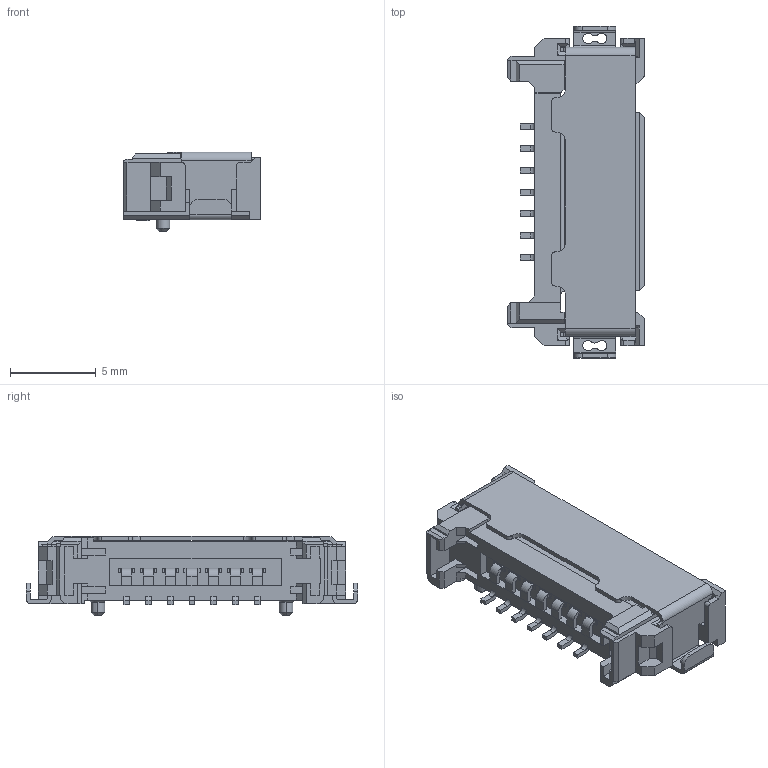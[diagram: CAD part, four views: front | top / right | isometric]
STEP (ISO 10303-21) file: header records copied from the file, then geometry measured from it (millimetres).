
FILE_DESCRIPTION(('CATIA V5 STEP Exchange'),'2;1');
FILE_NAME('U:\3Dmodel_5xxx\5650\3D Web\000 Type\10_5650_007_000_829_+_.stp','2016-03-09T06:43:03+00:00',('none'),('none'),'CATIA Version 5-6 Release 2014 SP4','CATIA V5 STEP AP203','none');
FILE_SCHEMA(('CONFIG_CONTROL_DESIGN'));
Length unit declared in the file: millimetre
Products named in the file (1): Part11
Bounding box: 8 x 19.4 x 4.65 mm (x, y, z)
Volume: 226.2 mm3; surface area: 765.2 mm2
Topology: 1 solids, 4 shells, 571 faces, 1763 edges, 1186 vertices
Faces by surface type: plane 441, cylinder 122, cone 8
Entity records: 18286 total; most frequent: ORIENTED_EDGE 3526, CARTESIAN_POINT 3469, DIRECTION 2388, EDGE_CURVE 1763, VECTOR 1466, LINE 1466, VERTEX_POINT 1186, EDGE_LOOP 589
